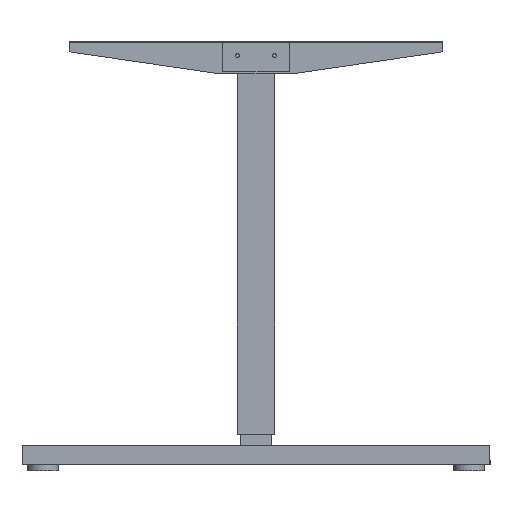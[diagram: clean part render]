
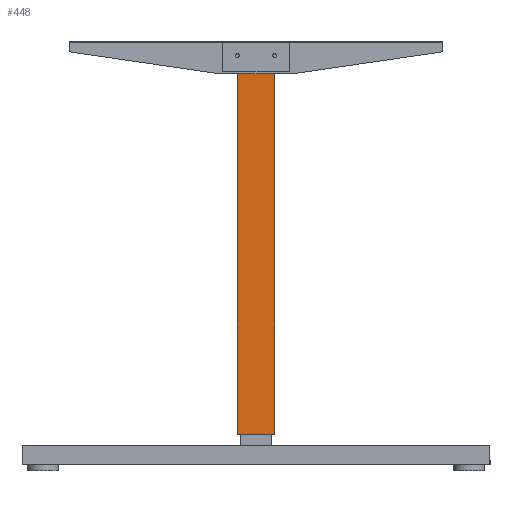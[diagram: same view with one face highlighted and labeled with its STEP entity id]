
A CAD part, left-side view. The second image highlights one B-rep face of the part: STEP entity #448.
In plain terms, the highlighted planar face has unit normal (-1, 0, 0).
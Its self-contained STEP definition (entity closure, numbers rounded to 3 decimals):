
#448 = ADVANCED_FACE( '', ( #944 ), #945, .F. );
#944 = FACE_OUTER_BOUND( '', #1552, .T. );
#945 = PLANE( '', #1553 );
#1552 = EDGE_LOOP( '', ( #2449, #2450, #2451, #2452 ) );
#1553 = AXIS2_PLACEMENT_3D( '', #2453, #2454, #2455 );
#2449 = ORIENTED_EDGE( '', *, *, #3236, .F. );
#2450 = ORIENTED_EDGE( '', *, *, #3049, .F. );
#2451 = ORIENTED_EDGE( '', *, *, #3323, .F. );
#2452 = ORIENTED_EDGE( '', *, *, #3351, .F. );
#2453 = CARTESIAN_POINT( '', ( -30., 0., 0. ) );
#2454 = DIRECTION( '', ( 1., 0., 0. ) );
#2455 = DIRECTION( '', ( 0., 0., -1. ) );
#3049 = EDGE_CURVE( '', #3505, #3506, #3507, .T. );
#3236 = EDGE_CURVE( '', #3506, #3836, #3837, .T. );
#3323 = EDGE_CURVE( '', #3965, #3505, #3966, .T. );
#3351 = EDGE_CURVE( '', #3836, #3965, #4006, .T. );
#3505 = VERTEX_POINT( '', #4203 );
#3506 = VERTEX_POINT( '', #4204 );
#3507 = LINE( '', #4205, #4206 );
#3836 = VERTEX_POINT( '', #4629 );
#3837 = LINE( '', #4630, #4631 );
#3965 = VERTEX_POINT( '', #4796 );
#3966 = LINE( '', #4797, #4798 );
#4006 = LINE( '', #4846, #4847 );
#4203 = CARTESIAN_POINT( '', ( -30., -30., 600. ) );
#4204 = CARTESIAN_POINT( '', ( -30., -30., 18. ) );
#4205 = CARTESIAN_POINT( '', ( -30., -30., 600. ) );
#4206 = VECTOR( '', #5084, 1000. );
#4629 = CARTESIAN_POINT( '', ( -30., 30., 18. ) );
#4630 = CARTESIAN_POINT( '', ( -30., 25., 18. ) );
#4631 = VECTOR( '', #5359, 1000. );
#4796 = CARTESIAN_POINT( '', ( -30., 30., 600. ) );
#4797 = CARTESIAN_POINT( '', ( -30., 30., 600. ) );
#4798 = VECTOR( '', #5466, 1000. );
#4846 = CARTESIAN_POINT( '', ( -30., 30., 18. ) );
#4847 = VECTOR( '', #5502, 1000. );
#5084 = DIRECTION( '', ( 0., 0., -1. ) );
#5359 = DIRECTION( '', ( 0., 1., 0. ) );
#5466 = DIRECTION( '', ( 0., -1., 0. ) );
#5502 = DIRECTION( '', ( 0., 0., 1. ) );
